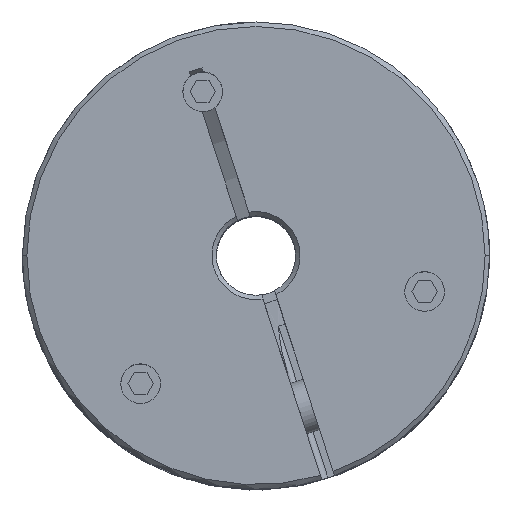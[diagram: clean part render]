
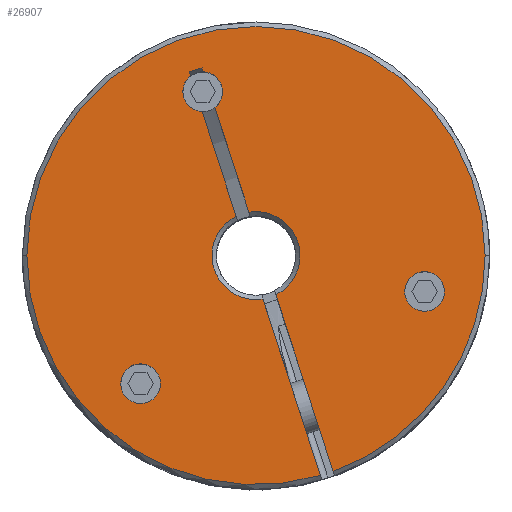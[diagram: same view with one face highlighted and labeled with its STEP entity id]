
A CAD part, top view. The second image highlights one B-rep face of the part: STEP entity #26907.
In plain terms, the highlighted planar face has unit normal (0, 0, 1).
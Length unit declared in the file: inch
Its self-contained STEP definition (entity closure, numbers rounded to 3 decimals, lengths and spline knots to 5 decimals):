
#12001=CARTESIAN_POINT('',(0.75317,-0.16009,
2.47965));
#12002=DIRECTION('',(0.,0.,-1.));
#12003=DIRECTION('',(0.951,0.309,0.));
#12004=AXIS2_PLACEMENT_3D('',#12001,#12002,#12003);
#12009=CARTESIAN_POINT('',(0.75317,-0.16009,
2.47965));
#12010=DIRECTION('',(0.,0.,-1.));
#12011=DIRECTION('',(0.,1.,0.));
#12012=AXIS2_PLACEMENT_3D('',#12009,#12010,#12011);
#12017=CARTESIAN_POINT('',(0.75317,-0.16009,
2.47965));
#12018=DIRECTION('',(0.,0.,-1.));
#12019=DIRECTION('',(-0.951,-0.309,0.));
#12020=AXIS2_PLACEMENT_3D('',#12017,#12018,#12019);
#12025=CARTESIAN_POINT('',(0.75317,-0.16009,
2.47965));
#12026=DIRECTION('',(0.,0.,-1.));
#12027=DIRECTION('',(0.,-1.,0.));
#12028=AXIS2_PLACEMENT_3D('',#12025,#12026,#12027);
#12033=CARTESIAN_POINT('',(-0.51523,-0.57222,
2.47965));
#12034=DIRECTION('',(0.,0.,-1.));
#12035=DIRECTION('',(0.951,0.309,0.));
#12036=AXIS2_PLACEMENT_3D('',#12033,#12034,#12035);
#12041=CARTESIAN_POINT('',(-0.51523,-0.57222,
2.47965));
#12042=DIRECTION('',(0.,0.,-1.));
#12043=DIRECTION('',(0.,1.,0.));
#12044=AXIS2_PLACEMENT_3D('',#12041,#12042,#12043);
#12049=CARTESIAN_POINT('',(-0.51523,-0.57222,
2.47965));
#12050=DIRECTION('',(0.,0.,-1.));
#12051=DIRECTION('',(-0.951,-0.309,0.));
#12052=AXIS2_PLACEMENT_3D('',#12049,#12050,#12051);
#12057=CARTESIAN_POINT('',(-0.51523,-0.57222,
2.47965));
#12058=DIRECTION('',(0.,0.,-1.));
#12059=DIRECTION('',(0.,-1.,0.));
#12060=AXIS2_PLACEMENT_3D('',#12057,#12058,#12059);
#12065=DIRECTION('',(-0.309,0.951,0.));
#12066=VECTOR('',#12065,0.82852);
#12067=CARTESIAN_POINT('',(0.28755,-0.98208,
2.47965));
#12068=LINE('',#12067,#12066);
#12072=CARTESIAN_POINT('',(0.,0.,2.47965));
#12073=DIRECTION('',(0.,0.,1.));
#12074=DIRECTION('',(-1.,0.,0.));
#12075=AXIS2_PLACEMENT_3D('',#12072,#12073,#12074);
#12080=CARTESIAN_POINT('',(0.,0.,2.47965));
#12081=DIRECTION('',(0.,0.,1.));
#12082=DIRECTION('',(1.,0.,0.));
#12083=AXIS2_PLACEMENT_3D('',#12080,#12081,#12082);
#12088=CARTESIAN_POINT('',(0.,0.,2.47965));
#12089=DIRECTION('',(0.,0.,1.));
#12090=DIRECTION('',(0.337,-0.942,0.));
#12091=AXIS2_PLACEMENT_3D('',#12088,#12089,#12090);
#12096=DIRECTION('',(0.309,-0.951,0.));
#12097=VECTOR('',#12096,0.82852);
#12098=CARTESIAN_POINT('',(0.08859,-0.17557,
2.47965));
#12099=LINE('',#12098,#12097);
#12103=DIRECTION('',(0.309,-0.951,0.));
#12104=VECTOR('',#12103,0.4923);
#12105=CARTESIAN_POINT('',(-0.18366,0.66232,
2.47965));
#12106=LINE('',#12105,#12104);
#12110=CARTESIAN_POINT('',(-0.23794,0.73231,
2.47965));
#12111=DIRECTION('',(0.,0.,-1.));
#12112=DIRECTION('',(0.951,0.309,0.));
#12113=AXIS2_PLACEMENT_3D('',#12110,#12111,#12112);
#12118=CARTESIAN_POINT('',(-0.23794,0.73231,
2.47965));
#12119=DIRECTION('',(0.,0.,-1.));
#12120=DIRECTION('',(0.031,1.,0.));
#12121=AXIS2_PLACEMENT_3D('',#12118,#12119,#12120);
#12126=DIRECTION('',(0.309,-0.951,0.));
#12127=VECTOR('',#12126,0.01858);
#12128=CARTESIAN_POINT('',(-0.24091,0.83852,
2.47965));
#12129=LINE('',#12128,#12127);
#12133=DIRECTION('',(0.951,0.309,0.));
#12134=VECTOR('',#12133,0.06);
#12135=CARTESIAN_POINT('',(-0.29797,0.81998,
2.47965));
#12136=LINE('',#12135,#12134);
#12140=DIRECTION('',(-0.309,0.951,0.));
#12141=VECTOR('',#12140,0.01858);
#12142=CARTESIAN_POINT('',(-0.29223,0.80231,
2.47965));
#12143=LINE('',#12142,#12141);
#12147=CARTESIAN_POINT('',(-0.23794,0.73231,
2.47965));
#12148=DIRECTION('',(0.,0.,-1.));
#12149=DIRECTION('',(-0.951,-0.309,0.));
#12150=AXIS2_PLACEMENT_3D('',#12147,#12148,#12149);
#12155=CARTESIAN_POINT('',(-0.23794,0.73231,
2.47965));
#12156=DIRECTION('',(0.,0.,-1.));
#12157=DIRECTION('',(-0.031,-1.,0.));
#12158=AXIS2_PLACEMENT_3D('',#12155,#12156,#12157);
#12163=DIRECTION('',(-0.309,0.951,0.));
#12164=VECTOR('',#12163,0.4923);
#12165=CARTESIAN_POINT('',(-0.08859,0.17557,
2.47965));
#12166=LINE('',#12165,#12164);
#12300=CARTESIAN_POINT('',(0.,0.,2.47965));
#12301=DIRECTION('',(0.,0.,-1.));
#12302=DIRECTION('',(-0.16,0.987,0.));
#12303=AXIS2_PLACEMENT_3D('',#12300,#12301,#12302);
#12308=CARTESIAN_POINT('',(0.,0.,2.47965));
#12309=DIRECTION('',(0.,0.,-1.));
#12310=DIRECTION('',(0.16,-0.987,0.));
#12311=AXIS2_PLACEMENT_3D('',#12308,#12309,#12310);
#12337=CARTESIAN_POINT('',(-0.03153,0.19411,
2.47965));
#12367=CARTESIAN_POINT('',(-0.08859,0.17557,
2.47965));
#12616=CARTESIAN_POINT('',(0.08859,-0.17557,
2.47965));
#12629=CARTESIAN_POINT('',(0.34462,-0.96353,
2.47965));
#12745=CARTESIAN_POINT('',(0.03153,-0.19411,
2.47965));
#14972=CARTESIAN_POINT('',(-0.43098,-0.54485,
2.47965));
#14974=VERTEX_POINT('',#14972);
#15007=CARTESIAN_POINT('',(-0.24072,0.64377,
2.47965));
#15009=VERTEX_POINT('',#15007);
#15466=CARTESIAN_POINT('',(0.75317,-0.07151,
2.47965));
#15467=CARTESIAN_POINT('',(0.83742,-0.13272,
2.47965));
#15468=VERTEX_POINT('',#15466);
#15469=VERTEX_POINT('',#15467);
#15892=CARTESIAN_POINT('',(-0.23517,0.82085,
2.47965));
#15894=VERTEX_POINT('',#15892);
#16152=CARTESIAN_POINT('',(-0.29797,0.81998,
2.47965));
#16153=CARTESIAN_POINT('',(-0.24091,0.83852,
2.47965));
#16154=VERTEX_POINT('',#16152);
#16155=VERTEX_POINT('',#16153);
#16256=CARTESIAN_POINT('',(-0.29223,0.80231,
2.47965));
#16257=VERTEX_POINT('',#16256);
#16462=VERTEX_POINT('',#12629);
#16566=CARTESIAN_POINT('',(-0.32219,0.70494,
2.47965));
#16567=VERTEX_POINT('',#16566);
#16575=CARTESIAN_POINT('',(-0.51523,-0.48364,
2.47965));
#16577=VERTEX_POINT('',#16575);
#16803=CARTESIAN_POINT('',(-0.59948,-0.5996,
2.47965));
#16804=VERTEX_POINT('',#16803);
#16817=CARTESIAN_POINT('',(-0.1537,0.75969,
2.47965));
#16819=VERTEX_POINT('',#16817);
#16871=CARTESIAN_POINT('',(0.66893,-0.18747,
2.47965));
#16872=VERTEX_POINT('',#16871);
#16873=CARTESIAN_POINT('',(1.02331,0.,2.47965));
#16874=CARTESIAN_POINT('',(-1.02331,0.,2.47965));
#16875=VERTEX_POINT('',#16873);
#16876=VERTEX_POINT('',#16874);
#17213=CARTESIAN_POINT('',(-0.18366,0.66232,
2.47965));
#17214=VERTEX_POINT('',#17213);
#17227=CARTESIAN_POINT('',(-0.51523,-0.6608,
2.47965));
#17228=VERTEX_POINT('',#17227);
#17253=CARTESIAN_POINT('',(0.75317,-0.24867,
2.47965));
#17254=VERTEX_POINT('',#17253);
#17281=CARTESIAN_POINT('',(0.28755,-0.98208,
2.47965));
#17282=VERTEX_POINT('',#17281);
#17385=VERTEX_POINT('',#12616);
#17387=VERTEX_POINT('',#12367);
#17390=VERTEX_POINT('',#12745);
#17392=VERTEX_POINT('',#12337);
#26849=CARTESIAN_POINT('',(0.,0.,2.47965));
#26850=DIRECTION('',(0.,0.,1.));
#26851=DIRECTION('',(0.,-1.,0.));
#26852=AXIS2_PLACEMENT_3D('',#26849,#26850,#26851);
#26853=PLANE('',#26852);
#26855=ORIENTED_EDGE('',*,*,#26854,.F.);
#26857=ORIENTED_EDGE('',*,*,#26856,.F.);
#26859=ORIENTED_EDGE('',*,*,#26858,.F.);
#26860=ORIENTED_EDGE('',*,*,#26835,.F.);
#26862=ORIENTED_EDGE('',*,*,#26861,.F.);
#26864=ORIENTED_EDGE('',*,*,#26863,.F.);
#26866=ORIENTED_EDGE('',*,*,#26865,.F.);
#26868=ORIENTED_EDGE('',*,*,#26867,.F.);
#26870=ORIENTED_EDGE('',*,*,#26869,.F.);
#26872=ORIENTED_EDGE('',*,*,#26871,.F.);
#26874=ORIENTED_EDGE('',*,*,#26873,.F.);
#26876=ORIENTED_EDGE('',*,*,#26875,.F.);
#26878=ORIENTED_EDGE('',*,*,#26877,.F.);
#26880=ORIENTED_EDGE('',*,*,#26879,.F.);
#26882=ORIENTED_EDGE('',*,*,#26881,.F.);
#26884=ORIENTED_EDGE('',*,*,#26883,.F.);
#26885=EDGE_LOOP('',(#26855,#26857,#26859,#26860,#26862,#26864,#26866,#26868,
#26870,#26872,#26874,#26876,#26878,#26880,#26882,#26884));
#26886=FACE_OUTER_BOUND('',#26885,.F.);
#26888=ORIENTED_EDGE('',*,*,#26887,.F.);
#26890=ORIENTED_EDGE('',*,*,#26889,.F.);
#26892=ORIENTED_EDGE('',*,*,#26891,.F.);
#26894=ORIENTED_EDGE('',*,*,#26893,.F.);
#26895=EDGE_LOOP('',(#26888,#26890,#26892,#26894));
#26896=FACE_BOUND('',#26895,.F.);
#26898=ORIENTED_EDGE('',*,*,#26897,.F.);
#26900=ORIENTED_EDGE('',*,*,#26899,.F.);
#26902=ORIENTED_EDGE('',*,*,#26901,.F.);
#26904=ORIENTED_EDGE('',*,*,#26903,.F.);
#26905=EDGE_LOOP('',(#26898,#26900,#26902,#26904));
#26906=FACE_BOUND('',#26905,.F.);
#12005=CIRCLE('',#12004,0.08858);
#12013=CIRCLE('',#12012,0.08858);
#12021=CIRCLE('',#12020,0.08858);
#12029=CIRCLE('',#12028,0.08858);
#12037=CIRCLE('',#12036,0.08858);
#12045=CIRCLE('',#12044,0.08858);
#12053=CIRCLE('',#12052,0.08858);
#12061=CIRCLE('',#12060,0.08858);
#12076=CIRCLE('',#12075,1.02331);
#12084=CIRCLE('',#12083,1.02331);
#12092=CIRCLE('',#12091,1.02331);
#12114=CIRCLE('',#12113,0.08858);
#12122=CIRCLE('',#12121,0.08858);
#12151=CIRCLE('',#12150,0.08858);
#12159=CIRCLE('',#12158,0.08858);
#12304=CIRCLE('',#12303,0.19665);
#12312=CIRCLE('',#12311,0.19665);
#26835=EDGE_CURVE('',#16875,#16876,#12084,.T.);
#26854=EDGE_CURVE('',#17390,#17387,#12312,.T.);
#26856=EDGE_CURVE('',#17282,#17390,#12068,.T.);
#26858=EDGE_CURVE('',#16876,#17282,#12076,.T.);
#26861=EDGE_CURVE('',#16462,#16875,#12092,.T.);
#26863=EDGE_CURVE('',#17385,#16462,#12099,.T.);
#26865=EDGE_CURVE('',#17392,#17385,#12304,.T.);
#26867=EDGE_CURVE('',#17214,#17392,#12106,.T.);
#26869=EDGE_CURVE('',#16819,#17214,#12114,.T.);
#26871=EDGE_CURVE('',#15894,#16819,#12122,.T.);
#26873=EDGE_CURVE('',#16155,#15894,#12129,.T.);
#26875=EDGE_CURVE('',#16154,#16155,#12136,.T.);
#26877=EDGE_CURVE('',#16257,#16154,#12143,.T.);
#26879=EDGE_CURVE('',#16567,#16257,#12151,.T.);
#26881=EDGE_CURVE('',#15009,#16567,#12159,.T.);
#26883=EDGE_CURVE('',#17387,#15009,#12166,.T.);
#26887=EDGE_CURVE('',#14974,#17228,#12037,.T.);
#26889=EDGE_CURVE('',#16577,#14974,#12045,.T.);
#26891=EDGE_CURVE('',#16804,#16577,#12053,.T.);
#26893=EDGE_CURVE('',#17228,#16804,#12061,.T.);
#26897=EDGE_CURVE('',#15469,#17254,#12005,.T.);
#26899=EDGE_CURVE('',#15468,#15469,#12013,.T.);
#26901=EDGE_CURVE('',#16872,#15468,#12021,.T.);
#26903=EDGE_CURVE('',#17254,#16872,#12029,.T.);
#26907=ADVANCED_FACE('',(#26886,#26896,#26906),#26853,.T.);
